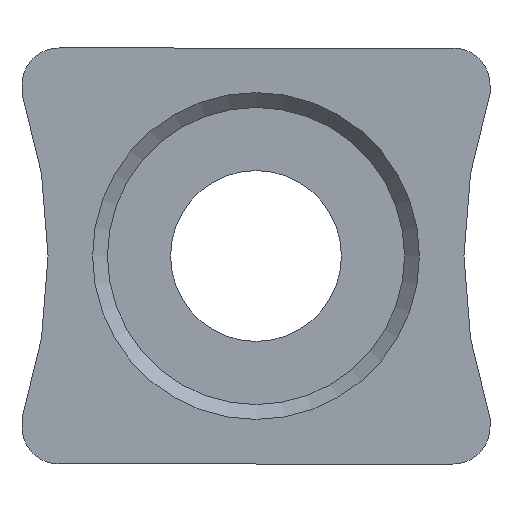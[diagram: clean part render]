
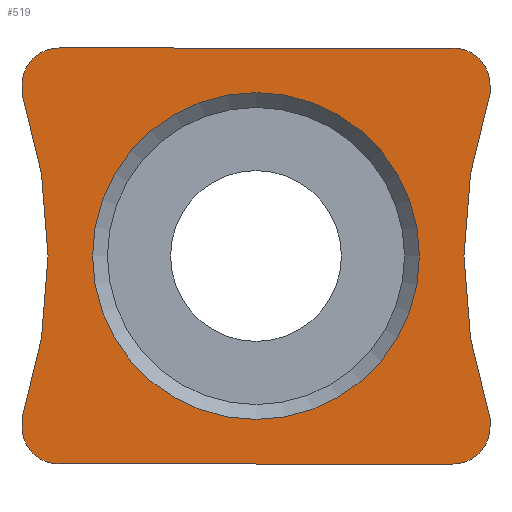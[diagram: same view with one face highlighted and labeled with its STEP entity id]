
A CAD part, left-side view. The second image highlights one B-rep face of the part: STEP entity #519.
In plain terms, the highlighted planar face has unit normal (-1, 0, 0).
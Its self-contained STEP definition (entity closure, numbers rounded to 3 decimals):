
#1 = CARTESIAN_POINT ( 'NONE',  ( 0., 3.15, 2.3 ) ) ;
#25 = DIRECTION ( 'NONE',  ( 0., 0., -1. ) ) ;
#30 = CIRCLE ( 'NONE', #722, 0.5 ) ;
#35 = CARTESIAN_POINT ( 'NONE',  ( 0., -3.15, 2.3 ) ) ;
#40 = EDGE_CURVE ( 'NONE', #79, #110, #412, .T. ) ;
#41 = CARTESIAN_POINT ( 'NONE',  ( 0., 2.65, 2.3 ) ) ;
#48 = VECTOR ( 'NONE', #76, 1000. ) ;
#63 = EDGE_CURVE ( 'NONE', #357, #890, #209, .T. ) ;
#76 = DIRECTION ( 'NONE',  ( 0., 0., 1. ) ) ;
#77 = EDGE_CURVE ( 'NONE', #110, #95, #190, .T. ) ;
#78 = CARTESIAN_POINT ( 'NONE',  ( 0., 2.65, -2.3 ) ) ;
#79 = VERTEX_POINT ( 'NONE', #483 ) ;
#81 = DIRECTION ( 'NONE',  ( 0., 0., 1. ) ) ;
#86 = AXIS2_PLACEMENT_3D ( 'NONE', #407, #590, #931 ) ;
#95 = VERTEX_POINT ( 'NONE', #332 ) ;
#110 = VERTEX_POINT ( 'NONE', #319 ) ;
#131 = DIRECTION ( 'NONE',  ( 0., 1., 0. ) ) ;
#162 = VERTEX_POINT ( 'NONE', #1110 ) ;
#175 = VECTOR ( 'NONE', #950, 1000. ) ;
#179 = DIRECTION ( 'NONE',  ( 0., 0., -1. ) ) ;
#185 = PLANE ( 'NONE',  #211 ) ;
#190 = CIRCLE ( 'NONE', #812, 7. ) ;
#199 = DIRECTION ( 'NONE',  ( 0., 0., -1. ) ) ;
#209 = CIRCLE ( 'NONE', #86, 0.5 ) ;
#211 = AXIS2_PLACEMENT_3D ( 'NONE', #371, #627, #695 ) ;
#214 = LINE ( 'NONE', #642, #1031 ) ;
#220 = CARTESIAN_POINT ( 'NONE',  ( 0., 3.15, -2.8 ) ) ;
#239 = CARTESIAN_POINT ( 'NONE',  ( 0., 3.15, 2.8 ) ) ;
#244 = DIRECTION ( 'NONE',  ( -1., 0., 0. ) ) ;
#248 = CIRCLE ( 'NONE', #866, 2.2 ) ;
#257 = EDGE_CURVE ( 'NONE', #944, #831, #438, .T. ) ;
#270 = EDGE_CURVE ( 'NONE', #831, #512, #775, .T. ) ;
#279 = AXIS2_PLACEMENT_3D ( 'NONE', #78, #1021, #752 ) ;
#289 = CARTESIAN_POINT ( 'NONE',  ( 0., 2.65, -2.8 ) ) ;
#310 = CARTESIAN_POINT ( 'NONE',  ( 0., -2.65, 2.3 ) ) ;
#313 = ORIENTED_EDGE ( 'NONE', *, *, #854, .F. ) ;
#319 = CARTESIAN_POINT ( 'NONE',  ( 0., 3.15, -2.186 ) ) ;
#326 = VERTEX_POINT ( 'NONE', #289 ) ;
#332 = CARTESIAN_POINT ( 'NONE',  ( 0., 3.15, 2.186 ) ) ;
#357 = VERTEX_POINT ( 'NONE', #505 ) ;
#364 = CARTESIAN_POINT ( 'NONE',  ( 0., 0., 0. ) ) ;
#367 = VERTEX_POINT ( 'NONE', #1 ) ;
#371 = CARTESIAN_POINT ( 'NONE',  ( 0., 0., 0. ) ) ;
#403 = EDGE_CURVE ( 'NONE', #79, #326, #1064, .T. ) ;
#407 = CARTESIAN_POINT ( 'NONE',  ( 0., -2.65, -2.3 ) ) ;
#412 = LINE ( 'NONE', #239, #48 ) ;
#429 = ORIENTED_EDGE ( 'NONE', *, *, #838, .T. ) ;
#438 = LINE ( 'NONE', #942, #813 ) ;
#447 = DIRECTION ( 'NONE',  ( -1., 0., 0. ) ) ;
#474 = VECTOR ( 'NONE', #1072, 1000. ) ;
#480 = LINE ( 'NONE', #964, #474 ) ;
#483 = CARTESIAN_POINT ( 'NONE',  ( 0., 3.15, -2.3 ) ) ;
#505 = CARTESIAN_POINT ( 'NONE',  ( 0., -2.65, -2.8 ) ) ;
#512 = VERTEX_POINT ( 'NONE', #869 ) ;
#519 = ADVANCED_FACE ( 'NONE', ( #710, #530 ), #185, .F. ) ;
#527 = AXIS2_PLACEMENT_3D ( 'NONE', #877, #447, #965 ) ;
#530 = FACE_OUTER_BOUND ( 'NONE', #743, .T. ) ;
#536 = ORIENTED_EDGE ( 'NONE', *, *, #589, .T. ) ;
#547 = ORIENTED_EDGE ( 'NONE', *, *, #77, .F. ) ;
#548 = ORIENTED_EDGE ( 'NONE', *, *, #270, .F. ) ;
#549 = DIRECTION ( 'NONE',  ( 0., 0., 1. ) ) ;
#582 = VECTOR ( 'NONE', #131, 1000. ) ;
#589 = EDGE_CURVE ( 'NONE', #641, #367, #1030, .T. ) ;
#590 = DIRECTION ( 'NONE',  ( -1., 0., 0. ) ) ;
#609 = CARTESIAN_POINT ( 'NONE',  ( 0., -3.15, 2.8 ) ) ;
#627 = DIRECTION ( 'NONE',  ( 1., 0., 0. ) ) ;
#641 = VERTEX_POINT ( 'NONE', #1086 ) ;
#642 = CARTESIAN_POINT ( 'NONE',  ( 0., 3.15, 2.8 ) ) ;
#695 = DIRECTION ( 'NONE',  ( 0., 0., -1. ) ) ;
#710 = FACE_BOUND ( 'NONE', #976, .T. ) ;
#722 = AXIS2_PLACEMENT_3D ( 'NONE', #310, #991, #999 ) ;
#743 = EDGE_LOOP ( 'NONE', ( #897, #1009, #839, #536, #827, #547, #969, #1003, #1080, #1056, #313, #548 ) ) ;
#744 = AXIS2_PLACEMENT_3D ( 'NONE', #41, #1037, #25 ) ;
#752 = DIRECTION ( 'NONE',  ( 0., 0., -1. ) ) ;
#775 = CIRCLE ( 'NONE', #527, 7. ) ;
#787 = LINE ( 'NONE', #609, #175 ) ;
#791 = CARTESIAN_POINT ( 'NONE',  ( 0., -3.15, 2.186 ) ) ;
#800 = LINE ( 'NONE', #220, #582 ) ;
#812 = AXIS2_PLACEMENT_3D ( 'NONE', #1005, #244, #81 ) ;
#813 = VECTOR ( 'NONE', #179, 1000. ) ;
#827 = ORIENTED_EDGE ( 'NONE', *, *, #1002, .F. ) ;
#831 = VERTEX_POINT ( 'NONE', #791 ) ;
#838 = EDGE_CURVE ( 'NONE', #984, #984, #248, .T. ) ;
#839 = ORIENTED_EDGE ( 'NONE', *, *, #993, .F. ) ;
#854 = EDGE_CURVE ( 'NONE', #512, #890, #787, .T. ) ;
#865 = CARTESIAN_POINT ( 'NONE',  ( 0., -3.15, -2.3 ) ) ;
#866 = AXIS2_PLACEMENT_3D ( 'NONE', #364, #1035, #199 ) ;
#869 = CARTESIAN_POINT ( 'NONE',  ( 0., -3.15, -2.186 ) ) ;
#877 = CARTESIAN_POINT ( 'NONE',  ( 0., -9.8, 0. ) ) ;
#890 = VERTEX_POINT ( 'NONE', #865 ) ;
#897 = ORIENTED_EDGE ( 'NONE', *, *, #257, .F. ) ;
#900 = CARTESIAN_POINT ( 'NONE',  ( 0., 0., -2.2 ) ) ;
#917 = EDGE_CURVE ( 'NONE', #357, #326, #800, .T. ) ;
#931 = DIRECTION ( 'NONE',  ( 0., 0., -1. ) ) ;
#942 = CARTESIAN_POINT ( 'NONE',  ( 0., -3.15, 2.8 ) ) ;
#944 = VERTEX_POINT ( 'NONE', #35 ) ;
#950 = DIRECTION ( 'NONE',  ( 0., 0., -1. ) ) ;
#964 = CARTESIAN_POINT ( 'NONE',  ( 0., 3.15, 2.8 ) ) ;
#965 = DIRECTION ( 'NONE',  ( 0., 0., 1. ) ) ;
#969 = ORIENTED_EDGE ( 'NONE', *, *, #40, .F. ) ;
#976 = EDGE_LOOP ( 'NONE', ( #429 ) ) ;
#984 = VERTEX_POINT ( 'NONE', #900 ) ;
#991 = DIRECTION ( 'NONE',  ( -1., 0., 0. ) ) ;
#993 = EDGE_CURVE ( 'NONE', #641, #162, #480, .T. ) ;
#999 = DIRECTION ( 'NONE',  ( 0., 0., -1. ) ) ;
#1002 = EDGE_CURVE ( 'NONE', #95, #367, #214, .T. ) ;
#1003 = ORIENTED_EDGE ( 'NONE', *, *, #403, .T. ) ;
#1005 = CARTESIAN_POINT ( 'NONE',  ( 0., 9.8, 0. ) ) ;
#1009 = ORIENTED_EDGE ( 'NONE', *, *, #1034, .T. ) ;
#1021 = DIRECTION ( 'NONE',  ( -1., 0., 0. ) ) ;
#1030 = CIRCLE ( 'NONE', #744, 0.5 ) ;
#1031 = VECTOR ( 'NONE', #549, 1000. ) ;
#1034 = EDGE_CURVE ( 'NONE', #944, #162, #30, .T. ) ;
#1035 = DIRECTION ( 'NONE',  ( 1., 0., 0. ) ) ;
#1037 = DIRECTION ( 'NONE',  ( -1., 0., 0. ) ) ;
#1056 = ORIENTED_EDGE ( 'NONE', *, *, #63, .T. ) ;
#1064 = CIRCLE ( 'NONE', #279, 0.5 ) ;
#1072 = DIRECTION ( 'NONE',  ( 0., -1., 0. ) ) ;
#1080 = ORIENTED_EDGE ( 'NONE', *, *, #917, .F. ) ;
#1086 = CARTESIAN_POINT ( 'NONE',  ( 0., 2.65, 2.8 ) ) ;
#1110 = CARTESIAN_POINT ( 'NONE',  ( 0., -2.65, 2.8 ) ) ;
